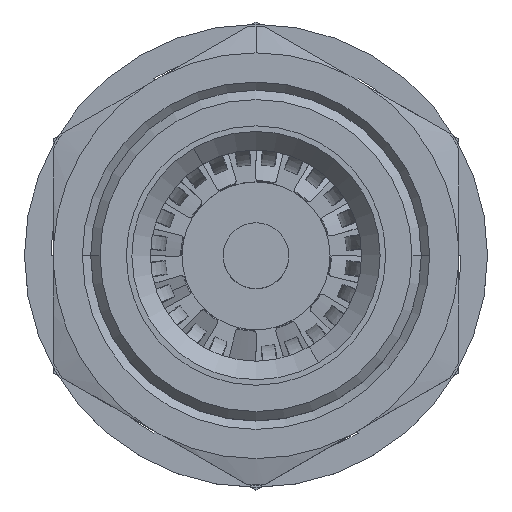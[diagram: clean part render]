
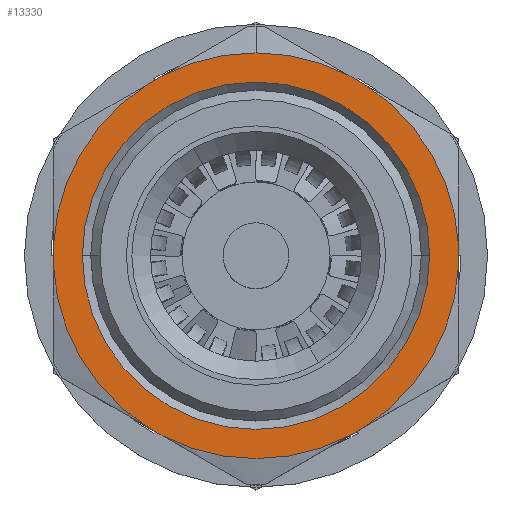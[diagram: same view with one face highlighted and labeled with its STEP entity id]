
A CAD part, top view. The second image highlights one B-rep face of the part: STEP entity #13330.
In plain terms, the highlighted planar face has unit normal (0, 0, 1).
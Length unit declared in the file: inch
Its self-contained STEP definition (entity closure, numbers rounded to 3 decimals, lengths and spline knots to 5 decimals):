
#268 = EDGE_CURVE ( 'NONE', #4950, #3391, #17839, .T. ) ;
#503 = CARTESIAN_POINT ( 'NONE',  ( -0.1875, 0., -0.10511 ) ) ;
#569 = CARTESIAN_POINT ( 'NONE',  ( 0.10032, 0.19467, -0.10511 ) ) ;
#1329 = DIRECTION ( 'NONE',  ( 0., 0., 1. ) ) ;
#1589 = CIRCLE ( 'NONE', #10954, 0.219 ) ;
#1811 = CARTESIAN_POINT ( 'NONE',  ( 0.21875, -0.01046, -0.10511 ) ) ;
#1911 = EDGE_CURVE ( 'NONE', #34732, #19144, #25126, .T. ) ;
#1982 = CIRCLE ( 'NONE', #27387, 0.219 ) ;
#2161 = DIRECTION ( 'NONE',  ( 0., 0., 1. ) ) ;
#2442 = CARTESIAN_POINT ( 'NONE',  ( 0.21875, 0.01046, -0.10511 ) ) ;
#2601 = DIRECTION ( 'NONE',  ( -0.866, -0.5, 0. ) ) ;
#2683 = EDGE_CURVE ( 'NONE', #4722, #17728, #9921, .T. ) ;
#2953 = CARTESIAN_POINT ( 'NONE',  ( 0.10032, -0.19467, -0.10511 ) ) ;
#3391 = VERTEX_POINT ( 'NONE', #10930 ) ;
#3722 = CARTESIAN_POINT ( 'NONE',  ( 0.11843, 0.18421, -0.10511 ) ) ;
#4283 = ORIENTED_EDGE ( 'NONE', *, *, #19230, .T. ) ;
#4476 = DIRECTION ( 'NONE',  ( 0., 0., 1. ) ) ;
#4607 = ORIENTED_EDGE ( 'NONE', *, *, #32355, .T. ) ;
#4722 = VERTEX_POINT ( 'NONE', #15292 ) ;
#4854 = CIRCLE ( 'NONE', #19227, 0.219 ) ;
#4869 = VERTEX_POINT ( 'NONE', #15972 ) ;
#4900 = ORIENTED_EDGE ( 'NONE', *, *, #1911, .T. ) ;
#4950 = VERTEX_POINT ( 'NONE', #5432 ) ;
#5416 = ORIENTED_EDGE ( 'NONE', *, *, #11789, .T. ) ;
#5432 = CARTESIAN_POINT ( 'NONE',  ( 0., 0.219, -0.10511 ) ) ;
#5436 = AXIS2_PLACEMENT_3D ( 'NONE', #7383, #26598, #10104 ) ;
#5886 = DIRECTION ( 'NONE',  ( 0., 0., 1. ) ) ;
#6092 = ORIENTED_EDGE ( 'NONE', *, *, #12259, .T. ) ;
#6401 = CARTESIAN_POINT ( 'NONE',  ( -0.21875, -0.01046, -0.10511 ) ) ;
#6409 = AXIS2_PLACEMENT_3D ( 'NONE', #31275, #14835, #34065 ) ;
#6592 = ORIENTED_EDGE ( 'NONE', *, *, #27696, .T. ) ;
#6901 = LINE ( 'NONE', #12505, #14178 ) ;
#7383 = CARTESIAN_POINT ( 'NONE',  ( 0., 0., -0.10511 ) ) ;
#7527 = CIRCLE ( 'NONE', #5436, 0.219 ) ;
#7748 = LINE ( 'NONE', #21182, #14127 ) ;
#8576 = CARTESIAN_POINT ( 'NONE',  ( 0., 0., -0.10511 ) ) ;
#8669 = AXIS2_PLACEMENT_3D ( 'NONE', #22714, #2161, #17099 ) ;
#9082 = VECTOR ( 'NONE', #12911, 39.37008 ) ;
#9724 = DIRECTION ( 'NONE',  ( 0., 1., 0. ) ) ;
#9921 = CIRCLE ( 'NONE', #10052, 0.1875 ) ;
#10029 = EDGE_LOOP ( 'NONE', ( #10886, #29584 ) ) ;
#10052 = AXIS2_PLACEMENT_3D ( 'NONE', #8576, #27963, #33297 ) ;
#10104 = DIRECTION ( 'NONE',  ( 1., 0., 0. ) ) ;
#10135 = VERTEX_POINT ( 'NONE', #569 ) ;
#10886 = ORIENTED_EDGE ( 'NONE', *, *, #2683, .T. ) ;
#10930 = CARTESIAN_POINT ( 'NONE',  ( -0.10032, 0.19467, -0.10511 ) ) ;
#10954 = AXIS2_PLACEMENT_3D ( 'NONE', #13229, #32528, #16011 ) ;
#11635 = CARTESIAN_POINT ( 'NONE',  ( -0.21875, 0.1263, -0.10511 ) ) ;
#11641 = VERTEX_POINT ( 'NONE', #2953 ) ;
#11789 = EDGE_CURVE ( 'NONE', #4869, #12255, #6901, .T. ) ;
#12255 = VERTEX_POINT ( 'NONE', #12346 ) ;
#12259 = EDGE_CURVE ( 'NONE', #22937, #20172, #28758, .T. ) ;
#12346 = CARTESIAN_POINT ( 'NONE',  ( -0.10032, -0.19467, -0.10511 ) ) ;
#12505 = CARTESIAN_POINT ( 'NONE',  ( -0.21875, -0.1263, -0.10511 ) ) ;
#12911 = DIRECTION ( 'NONE',  ( -0.866, 0.5, 0. ) ) ;
#13229 = CARTESIAN_POINT ( 'NONE',  ( 0., 0., -0.10511 ) ) ;
#13246 = VECTOR ( 'NONE', #9724, 39.37008 ) ;
#13330 = ADVANCED_FACE ( 'NONE', ( #22667, #29092 ), #27706, .T. ) ;
#13739 = DIRECTION ( 'NONE',  ( 0., 0., 1. ) ) ;
#14077 = VERTEX_POINT ( 'NONE', #3722 ) ;
#14127 = VECTOR ( 'NONE', #24082, 39.37008 ) ;
#14178 = VECTOR ( 'NONE', #34520, 39.37008 ) ;
#14478 = VERTEX_POINT ( 'NONE', #6401 ) ;
#14693 = LINE ( 'NONE', #11635, #22010 ) ;
#14835 = DIRECTION ( 'NONE',  ( 0., 0., -1. ) ) ;
#15047 = EDGE_CURVE ( 'NONE', #14478, #4869, #7527, .T. ) ;
#15292 = CARTESIAN_POINT ( 'NONE',  ( 0.1875, 0., -0.10511 ) ) ;
#15363 = CARTESIAN_POINT ( 'NONE',  ( 0., 0., -0.10511 ) ) ;
#15972 = CARTESIAN_POINT ( 'NONE',  ( -0.11843, -0.18421, -0.10511 ) ) ;
#16011 = DIRECTION ( 'NONE',  ( 1., 0., 0. ) ) ;
#16168 = CARTESIAN_POINT ( 'NONE',  ( -0.21875, 0.01046, -0.10511 ) ) ;
#16369 = ORIENTED_EDGE ( 'NONE', *, *, #268, .T. ) ;
#16421 = EDGE_CURVE ( 'NONE', #11641, #33418, #7748, .T. ) ;
#16671 = AXIS2_PLACEMENT_3D ( 'NONE', #20867, #4476, #23668 ) ;
#16743 = EDGE_LOOP ( 'NONE', ( #6092, #33852, #6592, #19669, #16369, #4607, #4900, #21655, #21065, #5416, #22724, #21219, #4283 ) ) ;
#17099 = DIRECTION ( 'NONE',  ( 1., 0., 0. ) ) ;
#17699 = CARTESIAN_POINT ( 'NONE',  ( 0., 0., -0.10511 ) ) ;
#17728 = VERTEX_POINT ( 'NONE', #503 ) ;
#17839 = CIRCLE ( 'NONE', #16671, 0.219 ) ;
#18112 = DIRECTION ( 'NONE',  ( 1., 0., 0. ) ) ;
#19144 = VERTEX_POINT ( 'NONE', #16168 ) ;
#19227 = AXIS2_PLACEMENT_3D ( 'NONE', #15363, #34565, #18112 ) ;
#19230 = EDGE_CURVE ( 'NONE', #33418, #22937, #19898, .T. ) ;
#19375 = EDGE_CURVE ( 'NONE', #17728, #4722, #25922, .T. ) ;
#19669 = ORIENTED_EDGE ( 'NONE', *, *, #31754, .T. ) ;
#19898 = CIRCLE ( 'NONE', #19987, 0.219 ) ;
#19987 = AXIS2_PLACEMENT_3D ( 'NONE', #30232, #13739, #33039 ) ;
#20172 = VERTEX_POINT ( 'NONE', #2442 ) ;
#20463 = DIRECTION ( 'NONE',  ( 1., 0., 0. ) ) ;
#20807 = EDGE_CURVE ( 'NONE', #12255, #11641, #1982, .T. ) ;
#20867 = CARTESIAN_POINT ( 'NONE',  ( 0., 0., -0.10511 ) ) ;
#21065 = ORIENTED_EDGE ( 'NONE', *, *, #15047, .T. ) ;
#21182 = CARTESIAN_POINT ( 'NONE',  ( 0., -0.25259, -0.10511 ) ) ;
#21219 = ORIENTED_EDGE ( 'NONE', *, *, #16421, .T. ) ;
#21655 = ORIENTED_EDGE ( 'NONE', *, *, #22314, .T. ) ;
#22010 = VECTOR ( 'NONE', #28078, 39.37008 ) ;
#22314 = EDGE_CURVE ( 'NONE', #19144, #14478, #14693, .T. ) ;
#22366 = CARTESIAN_POINT ( 'NONE',  ( -0.21875, 0.37889, -0.10511 ) ) ;
#22667 = FACE_BOUND ( 'NONE', #10029, .T. ) ;
#22714 = CARTESIAN_POINT ( 'NONE',  ( 0., 0., -0.10511 ) ) ;
#22724 = ORIENTED_EDGE ( 'NONE', *, *, #20807, .T. ) ;
#22806 = LINE ( 'NONE', #24681, #30079 ) ;
#22937 = VERTEX_POINT ( 'NONE', #1811 ) ;
#23448 = CARTESIAN_POINT ( 'NONE',  ( 0.21875, -0.1263, -0.10511 ) ) ;
#23668 = DIRECTION ( 'NONE',  ( 1., 0., 0. ) ) ;
#23709 = LINE ( 'NONE', #29412, #9082 ) ;
#24082 = DIRECTION ( 'NONE',  ( 0.866, 0.5, 0. ) ) ;
#24681 = CARTESIAN_POINT ( 'NONE',  ( 0., 0.25259, -0.10511 ) ) ;
#25119 = DIRECTION ( 'NONE',  ( 1., 0., 0. ) ) ;
#25126 = CIRCLE ( 'NONE', #8669, 0.219 ) ;
#25922 = CIRCLE ( 'NONE', #6409, 0.1875 ) ;
#25984 = EDGE_CURVE ( 'NONE', #20172, #14077, #1589, .T. ) ;
#26598 = DIRECTION ( 'NONE',  ( 0., 0., 1. ) ) ;
#27387 = AXIS2_PLACEMENT_3D ( 'NONE', #17699, #1329, #20463 ) ;
#27696 = EDGE_CURVE ( 'NONE', #14077, #10135, #23709, .T. ) ;
#27706 = PLANE ( 'NONE',  #31333 ) ;
#27963 = DIRECTION ( 'NONE',  ( 0., 0., -1. ) ) ;
#28078 = DIRECTION ( 'NONE',  ( 0., -1., 0. ) ) ;
#28758 = LINE ( 'NONE', #23448, #13246 ) ;
#29092 = FACE_OUTER_BOUND ( 'NONE', #16743, .T. ) ;
#29412 = CARTESIAN_POINT ( 'NONE',  ( 0.21875, 0.1263, -0.10511 ) ) ;
#29584 = ORIENTED_EDGE ( 'NONE', *, *, #19375, .T. ) ;
#30079 = VECTOR ( 'NONE', #2601, 39.37008 ) ;
#30232 = CARTESIAN_POINT ( 'NONE',  ( 0., 0., -0.10511 ) ) ;
#31275 = CARTESIAN_POINT ( 'NONE',  ( 0., 0., -0.10511 ) ) ;
#31333 = AXIS2_PLACEMENT_3D ( 'NONE', #22366, #5886, #25119 ) ;
#31754 = EDGE_CURVE ( 'NONE', #10135, #4950, #4854, .T. ) ;
#32355 = EDGE_CURVE ( 'NONE', #3391, #34732, #22806, .T. ) ;
#32528 = DIRECTION ( 'NONE',  ( 0., 0., 1. ) ) ;
#33021 = CARTESIAN_POINT ( 'NONE',  ( 0.11843, -0.18421, -0.10511 ) ) ;
#33039 = DIRECTION ( 'NONE',  ( 1., 0., 0. ) ) ;
#33297 = DIRECTION ( 'NONE',  ( 1., 0., 0. ) ) ;
#33418 = VERTEX_POINT ( 'NONE', #33021 ) ;
#33752 = CARTESIAN_POINT ( 'NONE',  ( -0.11843, 0.18421, -0.10511 ) ) ;
#33852 = ORIENTED_EDGE ( 'NONE', *, *, #25984, .T. ) ;
#34065 = DIRECTION ( 'NONE',  ( 1., 0., 0. ) ) ;
#34520 = DIRECTION ( 'NONE',  ( 0.866, -0.5, 0. ) ) ;
#34565 = DIRECTION ( 'NONE',  ( 0., 0., 1. ) ) ;
#34732 = VERTEX_POINT ( 'NONE', #33752 ) ;
